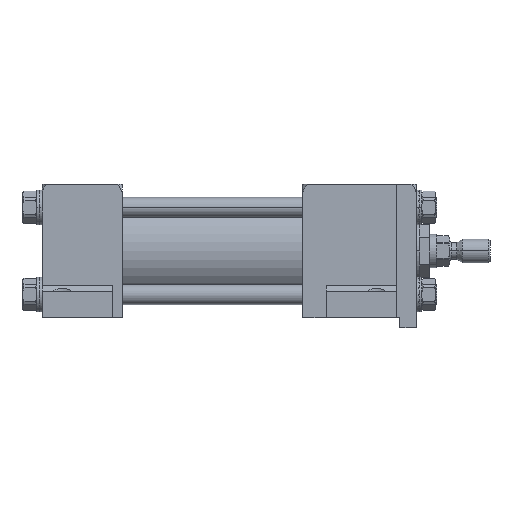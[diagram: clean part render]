
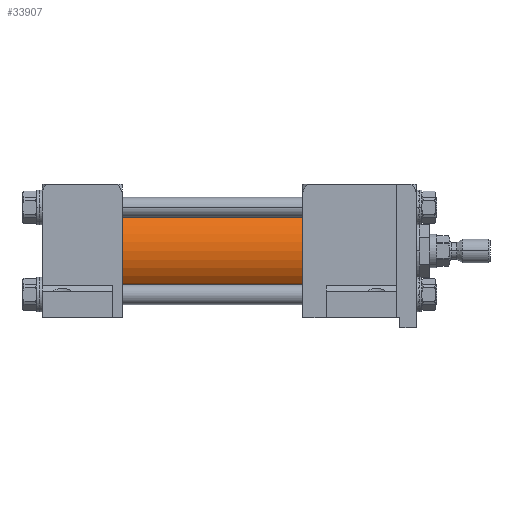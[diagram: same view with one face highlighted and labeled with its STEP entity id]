
A CAD part, front view. The second image highlights one B-rep face of the part: STEP entity #33907.
In plain terms, the highlighted cylindrical face has radius 23.812 mm (diameter 47.625 mm), a partial arc.
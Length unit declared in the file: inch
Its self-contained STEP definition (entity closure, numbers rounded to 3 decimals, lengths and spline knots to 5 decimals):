
#4441 = CARTESIAN_POINT ( 'NONE',  ( -2.5, 0., -0.9375 ) ) ;
#5442 = ORIENTED_EDGE ( 'NONE', *, *, #20818, .F. ) ;
#8479 = DIRECTION ( 'NONE',  ( 0., 0., -1. ) ) ;
#10294 = EDGE_LOOP ( 'NONE', ( #5442, #19697, #38561, #21315 ) ) ;
#13171 = CARTESIAN_POINT ( 'NONE',  ( -6.375, 0., 0. ) ) ;
#13219 = CARTESIAN_POINT ( 'NONE',  ( -2.5, 0., 0.9375 ) ) ;
#14342 = VECTOR ( 'NONE', #18498, 39.37008 ) ;
#14814 = CIRCLE ( 'NONE', #24826, 0.9375 ) ;
#16535 = LINE ( 'NONE', #36588, #35614 ) ;
#17718 = AXIS2_PLACEMENT_3D ( 'NONE', #59913, #59587, #31423 ) ;
#18498 = DIRECTION ( 'NONE',  ( 1., 0., 0. ) ) ;
#19697 = ORIENTED_EDGE ( 'NONE', *, *, #60123, .T. ) ;
#20818 = EDGE_CURVE ( 'NONE', #58456, #32664, #23902, .T. ) ;
#21103 = EDGE_CURVE ( 'NONE', #32664, #45945, #57748, .T. ) ;
#21315 = ORIENTED_EDGE ( 'NONE', *, *, #21103, .F. ) ;
#22968 = CARTESIAN_POINT ( 'NONE',  ( -6.375, 0., 0.9375 ) ) ;
#23902 = LINE ( 'NONE', #22968, #14342 ) ;
#24335 = VERTEX_POINT ( 'NONE', #35615 ) ;
#24419 = AXIS2_PLACEMENT_3D ( 'NONE', #13171, #32021, #8479 ) ;
#24826 = AXIS2_PLACEMENT_3D ( 'NONE', #36893, #28167, #41518 ) ;
#26064 = CARTESIAN_POINT ( 'NONE',  ( -6.375, 0., 0.9375 ) ) ;
#27609 = CYLINDRICAL_SURFACE ( 'NONE', #24419, 0.9375 ) ;
#28167 = DIRECTION ( 'NONE',  ( 1., 0., 0. ) ) ;
#31423 = DIRECTION ( 'NONE',  ( 0., 1., 0. ) ) ;
#32021 = DIRECTION ( 'NONE',  ( 1., 0., 0. ) ) ;
#32664 = VERTEX_POINT ( 'NONE', #13219 ) ;
#33085 = EDGE_CURVE ( 'NONE', #24335, #45945, #16535, .T. ) ;
#33907 = ADVANCED_FACE ( 'NONE', ( #50434 ), #27609, .T. ) ;
#35614 = VECTOR ( 'NONE', #60091, 39.37008 ) ;
#35615 = CARTESIAN_POINT ( 'NONE',  ( -6.375, 0., -0.9375 ) ) ;
#36588 = CARTESIAN_POINT ( 'NONE',  ( -6.375, 0., -0.9375 ) ) ;
#36893 = CARTESIAN_POINT ( 'NONE',  ( -6.375, 0., 0. ) ) ;
#38561 = ORIENTED_EDGE ( 'NONE', *, *, #33085, .T. ) ;
#41518 = DIRECTION ( 'NONE',  ( 0., 1., 0. ) ) ;
#45945 = VERTEX_POINT ( 'NONE', #4441 ) ;
#50434 = FACE_OUTER_BOUND ( 'NONE', #10294, .T. ) ;
#57748 = CIRCLE ( 'NONE', #17718, 0.9375 ) ;
#58456 = VERTEX_POINT ( 'NONE', #26064 ) ;
#59587 = DIRECTION ( 'NONE',  ( 1., 0., 0. ) ) ;
#59913 = CARTESIAN_POINT ( 'NONE',  ( -2.5, 0., 0. ) ) ;
#60091 = DIRECTION ( 'NONE',  ( 1., 0., 0. ) ) ;
#60123 = EDGE_CURVE ( 'NONE', #58456, #24335, #14814, .T. ) ;
